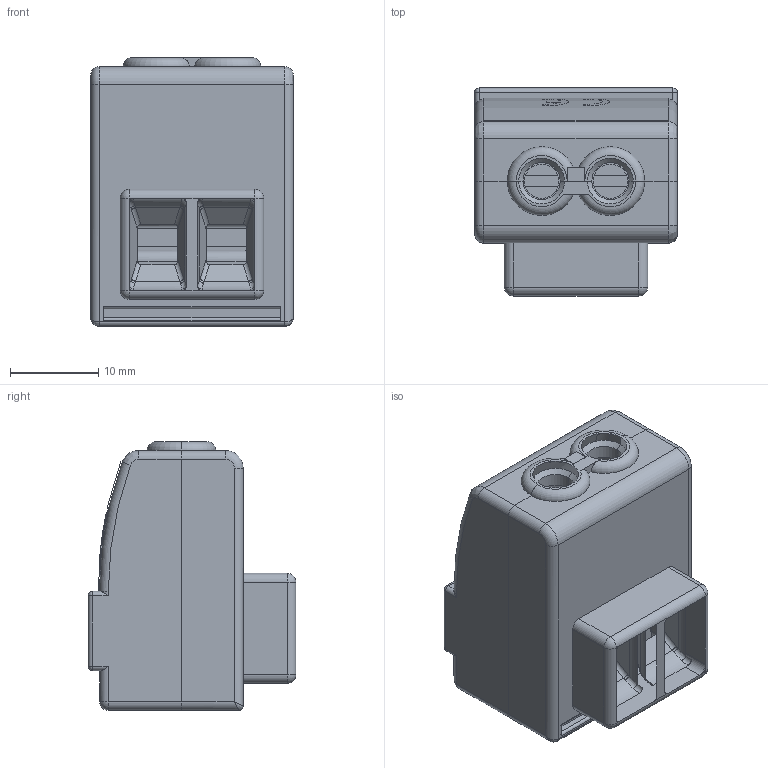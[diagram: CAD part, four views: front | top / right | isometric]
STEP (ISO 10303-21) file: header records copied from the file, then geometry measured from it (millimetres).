
FILE_DESCRIPTION(/* description */ (''),/* implementation_level */ '2;1');
FILE_NAME(/* name */ '4004748.stp',/* time_stamp */ '2016-09-26T09:57:47+02:00',/* author */ (''),/* organization */ (''),/* preprocessor_version */ 'ST-DEVELOPER v16',/* originating_system */ 'SIEMENS PLM Software NX 11.0',/* authorisation */ '');
FILE_SCHEMA (('AUTOMOTIVE_DESIGN { 1 0 10303 214 3 1 1 1 }'));
Length unit declared in the file: millimetre
Products named in the file (1): 4004748_LINKEDEXT_jt
Bounding box: 23 x 23.6 x 30.5 mm (x, y, z)
Surface area: 4088.7 mm2 (no closed solid volume)
Topology: 0 solids, 18 shells, 168 faces, 587 edges, 420 vertices
Faces by surface type: cylinder 65, plane 53, bspline 21, torus 15, sphere 10, cone 4
Entity records: 8157 total; most frequent: CARTESIAN_POINT 1980, DIRECTION 1077, ORIENTED_EDGE 876, EDGE_CURVE 575, VERTEX_POINT 420, AXIS2_PLACEMENT_3D 394, LINE 289, VECTOR 289
